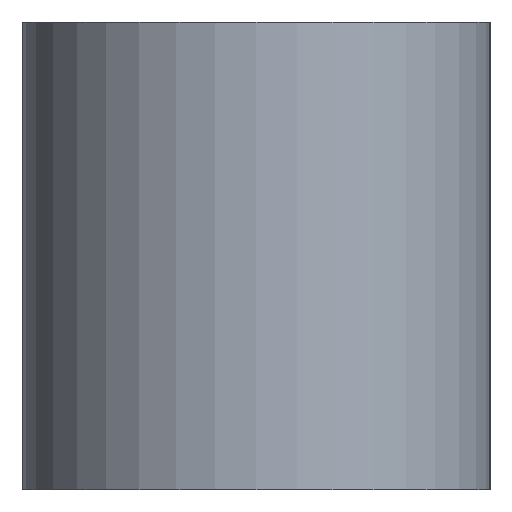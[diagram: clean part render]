
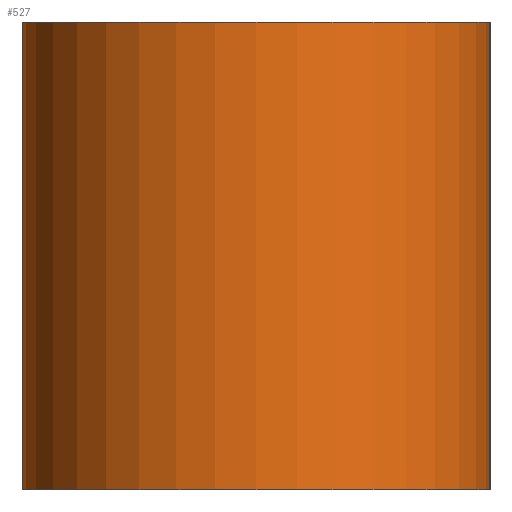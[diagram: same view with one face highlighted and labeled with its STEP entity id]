
A CAD part, left-side view. The second image highlights one B-rep face of the part: STEP entity #527.
In plain terms, the highlighted cylindrical face has radius 12 mm (diameter 24 mm), a partial arc.
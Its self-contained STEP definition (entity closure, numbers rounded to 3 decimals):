
#22 = VERTEX_POINT('',#23);
#23 = CARTESIAN_POINT('',(439.,50.5,12.));
#32 = PLANE('',#33);
#33 = AXIS2_PLACEMENT_3D('',#34,#35,#36);
#34 = CARTESIAN_POINT('',(439.,50.5,0.));
#35 = DIRECTION('',(0.,1.,0.));
#36 = DIRECTION('',(1.,0.,0.));
#44 = PLANE('',#45);
#45 = AXIS2_PLACEMENT_3D('',#46,#47,#48);
#46 = CARTESIAN_POINT('',(472.5,38.5,12.));
#47 = DIRECTION('',(-0.,-0.,-1.));
#48 = DIRECTION('',(-1.,0.,0.));
#85 = VERTEX_POINT('',#86);
#86 = CARTESIAN_POINT('',(439.,50.5,-12.));
#100 = PLANE('',#101);
#101 = AXIS2_PLACEMENT_3D('',#102,#103,#104);
#102 = CARTESIAN_POINT('',(472.5,38.5,-12.));
#103 = DIRECTION('',(-0.,-0.,-1.));
#104 = DIRECTION('',(-1.,0.,0.));
#112 = EDGE_CURVE('',#85,#22,#113,.T.);
#113 = SURFACE_CURVE('',#114,(#118,#125),.PCURVE_S1.);
#114 = LINE('',#115,#116);
#115 = CARTESIAN_POINT('',(439.,50.5,-12.));
#116 = VECTOR('',#117,1.);
#117 = DIRECTION('',(0.,0.,1.));
#118 = PCURVE('',#32,#119);
#119 = DEFINITIONAL_REPRESENTATION('',(#120),#124);
#120 = LINE('',#121,#122);
#121 = CARTESIAN_POINT('',(0.,12.));
#122 = VECTOR('',#123,1.);
#123 = DIRECTION('',(0.,-1.));
#124 = ( GEOMETRIC_REPRESENTATION_CONTEXT(2) 
PARAMETRIC_REPRESENTATION_CONTEXT() REPRESENTATION_CONTEXT('2D SPACE',''
  ) );
#125 = PCURVE('',#126,#131);
#126 = CYLINDRICAL_SURFACE('',#127,12.);
#127 = AXIS2_PLACEMENT_3D('',#128,#129,#130);
#128 = CARTESIAN_POINT('',(439.,38.5,0.));
#129 = DIRECTION('',(0.,-0.,-1.));
#130 = DIRECTION('',(0.,-1.,0.));
#131 = DEFINITIONAL_REPRESENTATION('',(#132),#136);
#132 = LINE('',#133,#134);
#133 = CARTESIAN_POINT('',(3.142,12.));
#134 = VECTOR('',#135,1.);
#135 = DIRECTION('',(0.,-1.));
#136 = ( GEOMETRIC_REPRESENTATION_CONTEXT(2) 
PARAMETRIC_REPRESENTATION_CONTEXT() REPRESENTATION_CONTEXT('2D SPACE',''
  ) );
#167 = VERTEX_POINT('',#168);
#168 = CARTESIAN_POINT('',(439.,26.5,12.));
#182 = PLANE('',#183);
#183 = AXIS2_PLACEMENT_3D('',#184,#185,#186);
#184 = CARTESIAN_POINT('',(506.,26.5,0.));
#185 = DIRECTION('',(0.,-1.,0.));
#186 = DIRECTION('',(-1.,0.,0.));
#194 = EDGE_CURVE('',#167,#22,#195,.T.);
#195 = SURFACE_CURVE('',#196,(#201,#208),.PCURVE_S1.);
#196 = CIRCLE('',#197,12.);
#197 = AXIS2_PLACEMENT_3D('',#198,#199,#200);
#198 = CARTESIAN_POINT('',(439.,38.5,12.));
#199 = DIRECTION('',(0.,-0.,-1.));
#200 = DIRECTION('',(0.,-1.,0.));
#201 = PCURVE('',#44,#202);
#202 = DEFINITIONAL_REPRESENTATION('',(#203),#207);
#203 = CIRCLE('',#204,12.);
#204 = AXIS2_PLACEMENT_2D('',#205,#206);
#205 = CARTESIAN_POINT('',(33.5,0.));
#206 = DIRECTION('',(0.,-1.));
#207 = ( GEOMETRIC_REPRESENTATION_CONTEXT(2) 
PARAMETRIC_REPRESENTATION_CONTEXT() REPRESENTATION_CONTEXT('2D SPACE',''
  ) );
#208 = PCURVE('',#126,#209);
#209 = DEFINITIONAL_REPRESENTATION('',(#210),#214);
#210 = LINE('',#211,#212);
#211 = CARTESIAN_POINT('',(0.,-12.));
#212 = VECTOR('',#213,1.);
#213 = DIRECTION('',(1.,0.));
#214 = ( GEOMETRIC_REPRESENTATION_CONTEXT(2) 
PARAMETRIC_REPRESENTATION_CONTEXT() REPRESENTATION_CONTEXT('2D SPACE',''
  ) );
#388 = VERTEX_POINT('',#389);
#389 = CARTESIAN_POINT('',(439.,26.5,-12.));
#410 = EDGE_CURVE('',#388,#85,#411,.T.);
#411 = SURFACE_CURVE('',#412,(#417,#424),.PCURVE_S1.);
#412 = CIRCLE('',#413,12.);
#413 = AXIS2_PLACEMENT_3D('',#414,#415,#416);
#414 = CARTESIAN_POINT('',(439.,38.5,-12.));
#415 = DIRECTION('',(0.,-0.,-1.));
#416 = DIRECTION('',(0.,-1.,0.));
#417 = PCURVE('',#100,#418);
#418 = DEFINITIONAL_REPRESENTATION('',(#419),#423);
#419 = CIRCLE('',#420,12.);
#420 = AXIS2_PLACEMENT_2D('',#421,#422);
#421 = CARTESIAN_POINT('',(33.5,0.));
#422 = DIRECTION('',(0.,-1.));
#423 = ( GEOMETRIC_REPRESENTATION_CONTEXT(2) 
PARAMETRIC_REPRESENTATION_CONTEXT() REPRESENTATION_CONTEXT('2D SPACE',''
  ) );
#424 = PCURVE('',#126,#425);
#425 = DEFINITIONAL_REPRESENTATION('',(#426),#430);
#426 = LINE('',#427,#428);
#427 = CARTESIAN_POINT('',(-0.,12.));
#428 = VECTOR('',#429,1.);
#429 = DIRECTION('',(1.,-0.));
#430 = ( GEOMETRIC_REPRESENTATION_CONTEXT(2) 
PARAMETRIC_REPRESENTATION_CONTEXT() REPRESENTATION_CONTEXT('2D SPACE',''
  ) );
#527 = ADVANCED_FACE('',(#528),#126,.T.);
#528 = FACE_BOUND('',#529,.T.);
#529 = EDGE_LOOP('',(#530,#531,#532,#533));
#530 = ORIENTED_EDGE('',*,*,#194,.T.);
#531 = ORIENTED_EDGE('',*,*,#112,.F.);
#532 = ORIENTED_EDGE('',*,*,#410,.F.);
#533 = ORIENTED_EDGE('',*,*,#534,.T.);
#534 = EDGE_CURVE('',#388,#167,#535,.T.);
#535 = SURFACE_CURVE('',#536,(#540,#547),.PCURVE_S1.);
#536 = LINE('',#537,#538);
#537 = CARTESIAN_POINT('',(439.,26.5,-12.));
#538 = VECTOR('',#539,1.);
#539 = DIRECTION('',(0.,0.,1.));
#540 = PCURVE('',#126,#541);
#541 = DEFINITIONAL_REPRESENTATION('',(#542),#546);
#542 = LINE('',#543,#544);
#543 = CARTESIAN_POINT('',(0.,12.));
#544 = VECTOR('',#545,1.);
#545 = DIRECTION('',(0.,-1.));
#546 = ( GEOMETRIC_REPRESENTATION_CONTEXT(2) 
PARAMETRIC_REPRESENTATION_CONTEXT() REPRESENTATION_CONTEXT('2D SPACE',''
  ) );
#547 = PCURVE('',#182,#548);
#548 = DEFINITIONAL_REPRESENTATION('',(#549),#553);
#549 = LINE('',#550,#551);
#550 = CARTESIAN_POINT('',(67.,12.));
#551 = VECTOR('',#552,1.);
#552 = DIRECTION('',(0.,-1.));
#553 = ( GEOMETRIC_REPRESENTATION_CONTEXT(2) 
PARAMETRIC_REPRESENTATION_CONTEXT() REPRESENTATION_CONTEXT('2D SPACE',''
  ) );
